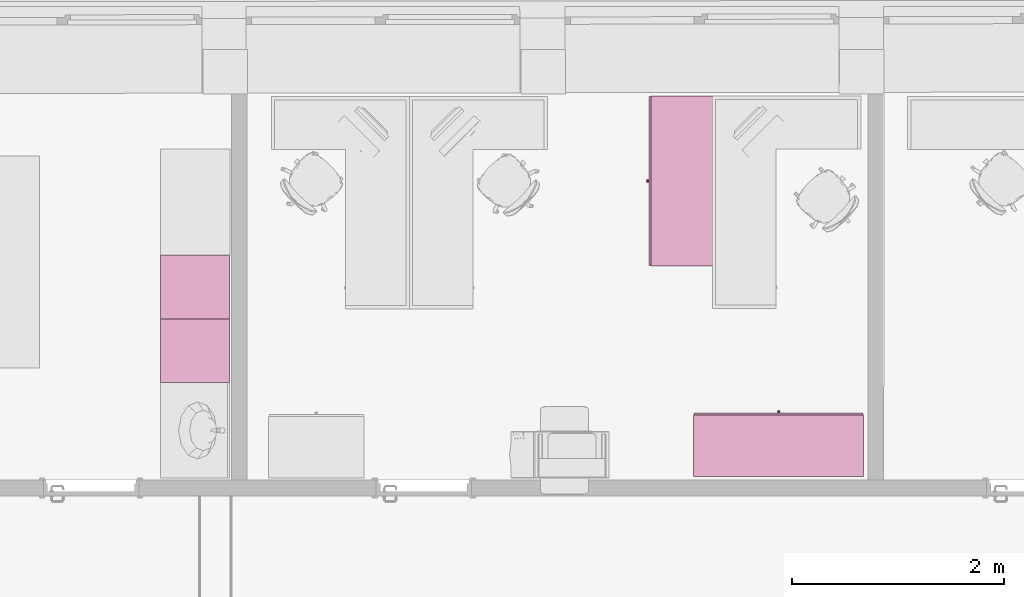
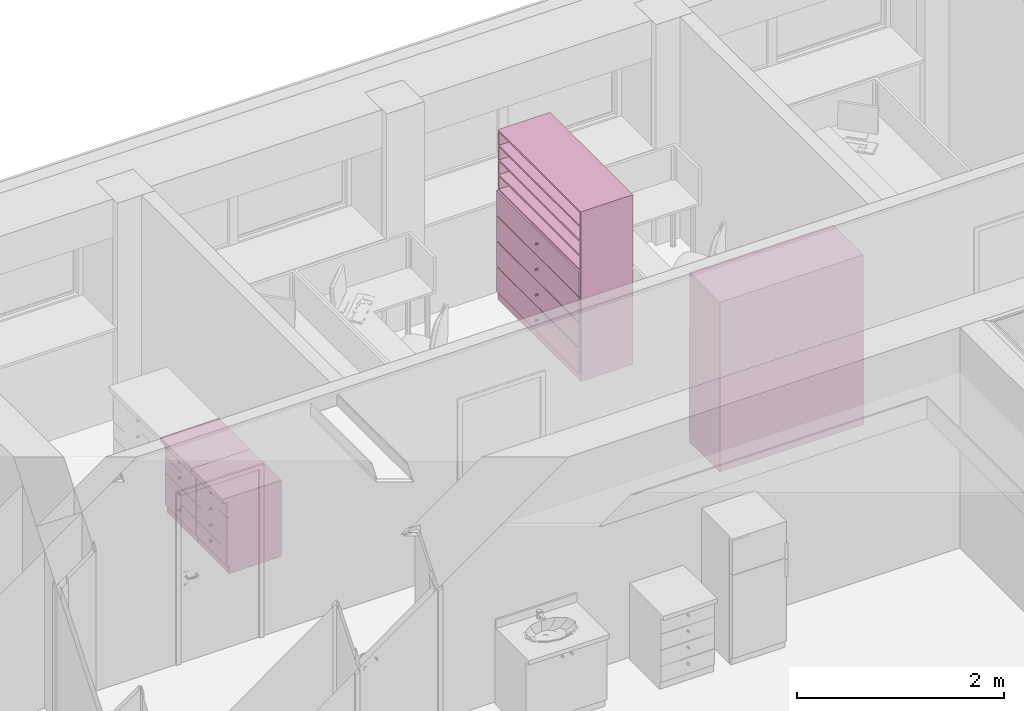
# One storey, part 98 of 127: 4 furnishings.
"""IFC2X3 building model written with IfcOpenShell, lengths in millimetres."""

import ifcopenshell
import ifcopenshell.guid

model = None  # the IFC model being written
_history = None  # IfcOwnerHistory: only IFC2X3 demands one
_inside = {}  # id of a spatial element -> (the spatial element, [elements in it])
_under = {}  # id of a project, library or spatial element -> (it, [spatial elements below it])
_declared = {}  # id of a project -> (the project, [libraries it declares])
_typed = {}  # id of a type object -> (the type object, [elements of that type])
_made_of = {}  # id of a material, layer set ... -> (it, [elements and type objects made of it])


def new_model(schema):
    """Start an empty IFC model of exactly this schema.

    Asked for "IFC4X3", IfcOpenShell would pick the latest addendum, in which some entities
    have other attributes; the version numbers below select the first issue.
    IFC2X3 requires an IfcOwnerHistory on every rooted entity: one is made here for all.
    """
    global model, _history
    if schema == "IFC4X3":
        model = ifcopenshell.file(schema_version=(4, 3, 0, 0))
    else:
        model = ifcopenshell.file(schema=schema)
    _inside.clear()
    _under.clear()
    _declared.clear()
    _typed.clear()
    _made_of.clear()
    _history = None
    if model.schema == "IFC2X3":
        org = make("IfcOrganization", Name="unknown")
        user = make(
            "IfcPersonAndOrganization",
            ThePerson=make("IfcPerson", FamilyName="unknown"),
            TheOrganization=org,
        )
        app = make(
            "IfcApplication",
            ApplicationDeveloper=org,
            Version="unknown",
            ApplicationFullName="unknown",
            ApplicationIdentifier="unknown",
        )
        _history = make(
            "IfcOwnerHistory",
            OwningUser=user,
            OwningApplication=app,
            ChangeAction="ADDED",
            CreationDate=0,
        )
    return model


def make(cls, **values):
    """One entity of the class cls with the attributes given. An attribute that is None is left unset."""
    return model.create_entity(
        cls, **{name: value for name, value in values.items() if value is not None}
    )


def entity(cls, *values):
    """Any entity or typed value of the class cls, its attributes in the order of the schema. None: left unset."""
    e = model.create_entity(cls)
    for i, value in enumerate(values):
        if value is not None:
            e[i] = value
    return e


def rooted(cls, **values):
    """An entity with a GlobalId (a new one), such as an element, a storey or a relation."""
    return make(cls, GlobalId=ifcopenshell.guid.new(), OwnerHistory=_history, **values)


def si_unit(unit_type, name, prefix=None):
    """IfcSIUnit, for example si_unit("LENGTHUNIT", "METRE", prefix="MILLI")."""
    return make("IfcSIUnit", UnitType=unit_type, Prefix=prefix, Name=name)


def converted_unit(unit_type, name, factor, base, dimensions=None, offset=None):
    """IfcConversionBasedUnit, such as the inch: factor (a typed value) times the base unit."""
    return make(
        "IfcConversionBasedUnit"
        if offset is None
        else "IfcConversionBasedUnitWithOffset",
        ConversionOffset=offset,
        Dimensions=None
        if dimensions is None
        else entity("IfcDimensionalExponents", *dimensions),
        UnitType=unit_type,
        Name=name,
        ConversionFactor=make(
            "IfcMeasureWithUnit", ValueComponent=factor, UnitComponent=base
        ),
    )


def derived_unit(unit_type, elements):
    """IfcDerivedUnit: a product of units, each with its exponent."""
    return make(
        "IfcDerivedUnit",
        Elements=[
            make("IfcDerivedUnitElement", Unit=unit, Exponent=power)
            for unit, power in elements
        ],
        UnitType=unit_type,
    )


def money_unit(currency):
    """IfcMonetaryUnit."""
    return make("IfcMonetaryUnit", Currency=currency)


def assignment(units):
    """IfcUnitAssignment: the units of a project."""
    return None if units is None else make("IfcUnitAssignment", Units=units)


def point(xyz):
    """IfcCartesianPoint."""
    return None if xyz is None else make("IfcCartesianPoint", Coordinates=xyz)


def direction(xyz):
    """IfcDirection."""
    return None if xyz is None else make("IfcDirection", DirectionRatios=xyz)


def frame(location, z_axis=None, x_axis=None):
    """IfcAxis2Placement3D, a coordinate frame: its origin and axes. An axis left out is left unset."""
    return make(
        "IfcAxis2Placement3D",
        Location=point(location),
        Axis=direction(z_axis),
        RefDirection=direction(x_axis),
    )


def origin_with_axes():
    """The frame at (0, 0, 0) with the z axis (0, 0, 1) and the x axis (1, 0, 0) written out."""
    return frame((0.0, 0.0, 0.0), z_axis=(0.0, 0.0, 1.0), x_axis=(1.0, 0.0, 0.0))


def place(relative_to, where):
    """IfcLocalPlacement: puts the frame where relative to a parent placement (None: the world)."""
    return make(
        "IfcLocalPlacement", PlacementRelTo=relative_to, RelativePlacement=where
    )


def context(
    kind, dimensions, precision=None, world=None, true_north=None, identifier=None
):
    """IfcGeometricRepresentationContext, for example the 3D "Model" context."""
    return make(
        "IfcGeometricRepresentationContext",
        ContextIdentifier=identifier,
        ContextType=kind,
        CoordinateSpaceDimension=dimensions,
        Precision=precision,
        WorldCoordinateSystem=world,
        TrueNorth=true_north,
    )


def subcontext(parent, identifier, kind, view, scale=None):
    """IfcGeometricRepresentationSubContext, for example "Body" below "Model"."""
    return make(
        "IfcGeometricRepresentationSubContext",
        ContextIdentifier=identifier,
        ContextType=kind,
        ParentContext=parent,
        TargetScale=scale,
        TargetView=view,
    )


def project(units=None, contexts=None):
    """IfcProject with its units and contexts."""
    return rooted(
        "IfcProject",
        Name="project",
        RepresentationContexts=contexts,
        UnitsInContext=assignment(units),
    )


def spatial(cls, under=None, at=None, **own):
    """A site, building, storey or space (cls), placed at a placement, below another one or the project."""
    s = rooted(cls, ObjectPlacement=at, **own)
    if under is not None:
        _under.setdefault(under.id(), (under, []))[1].append(s)
    return s


def faces_of(points, faces, orient=None, outer=None):
    """IfcFace entities. A face is a list of loops; a loop is a list of indices into points, from 0.

    orient and outer hold one flag for each loop. By default every Orientation is true, the
    first loop of a face is its IfcFaceOuterBound and the others are IfcFaceBound.
    """
    made = []
    for i, loops in enumerate(faces):
        bounds = []
        for j, loop in enumerate(loops):
            is_outer = j == 0 if outer is None else outer[i][j]
            bounds.append(
                make(
                    "IfcFaceOuterBound" if is_outer else "IfcFaceBound",
                    Bound=make("IfcPolyLoop", Polygon=[points[k] for k in loop]),
                    Orientation=True if orient is None else orient[i][j],
                )
            )
        made.append(make("IfcFace", Bounds=bounds))
    return made


def faceted_brep(points, faces, orient=None, outer=None, voids=None):
    """IfcFacetedBrep: a solid bounded by flat faces; with voids (closed shells), ...WithVoids."""
    shared = [point(p) for p in points]
    hull = make("IfcClosedShell", CfsFaces=faces_of(shared, faces, orient, outer))
    if voids is None:
        return make("IfcFacetedBrep", Outer=hull)
    return make(
        "IfcFacetedBrepWithVoids",
        Outer=hull,
        Voids=[
            make(cls, CfsFaces=faces_of(shared, fs, o, b)) for cls, fs, o, b in voids
        ],
    )


def shape(context_of_items, identifier, shape_type, items):
    """IfcShapeRepresentation: the items that make up one representation, for example the "Body"."""
    return make(
        "IfcShapeRepresentation",
        ContextOfItems=context_of_items,
        RepresentationIdentifier=identifier,
        RepresentationType=shape_type,
        Items=items,
    )


def source(mapping_origin, context_of_items, identifier, shape_type, items):
    """IfcRepresentationMap: a shape defined once, which mapped items show again and again."""
    return make(
        "IfcRepresentationMap",
        MappingOrigin=mapping_origin,
        MappedRepresentation=shape(context_of_items, identifier, shape_type, items),
    )


def transform(
    local_origin,
    x_axis=None,
    y_axis=None,
    z_axis=None,
    scale=None,
    scale2=None,
    scale3=None,
    uniform=True,
):
    """IfcCartesianTransformationOperator3D, or its non-uniform kind. x_axis, y_axis, z_axis: its Axis1, 2, 3."""
    if uniform:
        return make(
            "IfcCartesianTransformationOperator3D",
            Axis1=direction(x_axis),
            Axis2=direction(y_axis),
            LocalOrigin=point(local_origin),
            Scale=scale,
            Axis3=direction(z_axis),
        )
    return make(
        "IfcCartesianTransformationOperator3DnonUniform",
        Axis1=direction(x_axis),
        Axis2=direction(y_axis),
        LocalOrigin=point(local_origin),
        Scale=scale,
        Axis3=direction(z_axis),
        Scale2=scale2,
        Scale3=scale3,
    )


def mapped(mapping_source, mapping_target):
    """IfcMappedItem: shows the shape of a source again, moved by a transform."""
    return make(
        "IfcMappedItem", MappingSource=mapping_source, MappingTarget=mapping_target
    )


def made_of(thing, what):
    """Note that an element or type object is made of a material, layer set ...; save() writes the relation."""
    if what is not None:
        _made_of.setdefault(what.id(), (what, []))[1].append(thing)
    return thing


def type_object(cls, material=None, **own):
    """A type object (cls), such as IfcWallType, which elements share."""
    return made_of(rooted(cls, **own), material)


def element(
    cls,
    number,
    at=None,
    inside=None,
    cuts=None,
    type_object=None,
    material=None,
    context=None,
    identifier="Body",
    shape_type=None,
    held_by="IfcProductDefinitionShape",
    body=None,
    shapes=None,
    **own,
):
    """One element of the class cls, such as IfcWall. Its Tag is "e" and its number.

    at: its placement. inside: the storey or other place that contains it. cuts: it is an
    opening in that element (IfcRelVoidsElement). A single representation is given by context,
    identifier, shape_type and body (its items); several are given by shapes. held_by: the class
    of the entity that holds the representations. save() writes the other relations.
    """
    e = rooted(cls, Tag="e%d" % number, ObjectPlacement=at, **own)
    if body is not None:
        shapes = [shape(context, identifier, shape_type, body)]
    if shapes is not None:
        e.Representation = make(held_by, Representations=shapes)
    if inside is not None:
        _inside.setdefault(inside.id(), (inside, []))[1].append(e)
    if cuts is not None:
        rooted(
            "IfcRelVoidsElement", RelatingBuildingElement=cuts, RelatedOpeningElement=e
        )
    if type_object is not None:
        _typed.setdefault(type_object.id(), (type_object, []))[1].append(e)
    return made_of(e, material)


def aggregate(whole, parts):
    """IfcRelAggregates: a whole, such as a stair, and the parts it consists of."""
    return rooted("IfcRelAggregates", RelatingObject=whole, RelatedObjects=parts)


def save(model, path):
    """Write the relations noted so far, then the file.

    IfcRelAggregates (storeys below a building ...), IfcRelContainedInSpatialStructure (elements
    in a storey), IfcRelDefinesByType, IfcRelAssociatesMaterial and IfcRelDeclares: one each for
    every whole, place, type object, material and project.
    """
    for whole, parts in _under.values():
        aggregate(whole, parts)
    for where, things in _inside.values():
        rooted(
            "IfcRelContainedInSpatialStructure",
            RelatedElements=things,
            RelatingStructure=where,
        )
    for kind, things in _typed.values():
        rooted("IfcRelDefinesByType", RelatedObjects=things, RelatingType=kind)
    for what, things in _made_of.values():
        rooted("IfcRelAssociatesMaterial", RelatedObjects=things, RelatingMaterial=what)
    for by, libraries in _declared.values():
        rooted("IfcRelDeclares", RelatingContext=by, RelatedDefinitions=libraries)
    model.write(path)


model = new_model("IFC2X3")

# Units and contexts
model_context = context("Model", 3, precision=1e-05, world=origin_with_axes(), true_north=direction((0.0, 1.0)))
body_context = subcontext(model_context, "Body", "Model", "MODEL_VIEW")
ifc_project = project(units=[si_unit("LENGTHUNIT", "METRE", prefix="MILLI"), si_unit("AREAUNIT", "SQUARE_METRE"), si_unit("VOLUMEUNIT", "CUBIC_METRE"), converted_unit("PLANEANGLEUNIT", "DEGREE", entity("IfcPlaneAngleMeasure", 0.0174532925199), si_unit("PLANEANGLEUNIT", "RADIAN"), dimensions=[0, 0, 0, 0, 0, 0, 0]), si_unit("SOLIDANGLEUNIT", "STERADIAN"), money_unit("EUR"), converted_unit("TIMEUNIT", "Year", entity("IfcTimeMeasure", 31556926.0), si_unit("TIMEUNIT", "SECOND"), dimensions=[0, 0, 1, 0, 0, 0, 0]), si_unit("MASSUNIT", "GRAM", prefix="KILO"), si_unit("THERMODYNAMICTEMPERATUREUNIT", "DEGREE_CELSIUS"), si_unit("LUMINOUSINTENSITYUNIT", "LUMEN"), si_unit("ENERGYUNIT", "JOULE", prefix="MEGA"), derived_unit("THERMALCONDUCTANCEUNIT", [(si_unit("POWERUNIT", "WATT"), 1), (si_unit("LENGTHUNIT", "METRE"), -1), (si_unit("THERMODYNAMICTEMPERATUREUNIT", "KELVIN"), -1)]), derived_unit("SPECIFICHEATCAPACITYUNIT", [(si_unit("ENERGYUNIT", "JOULE"), 1), (si_unit("MASSUNIT", "GRAM", prefix="KILO"), -1), (si_unit("THERMODYNAMICTEMPERATUREUNIT", "KELVIN"), -1)]), derived_unit("MASSDENSITYUNIT", [(si_unit("MASSUNIT", "GRAM", prefix="KILO"), 1), (si_unit("VOLUMEUNIT", "CUBIC_METRE"), -1)])], contexts=[model_context])

# Site, building, storey
site_placement = place(None, origin_with_axes())
site = spatial("IfcSite", under=ifc_project, at=site_placement, Name="Site", CompositionType="ELEMENT")
building_placement = place(site_placement, origin_with_axes())
building = spatial("IfcBuilding", under=site, at=building_placement, Name="Building", CompositionType="ELEMENT")
storey_placement = place(building_placement, origin_with_axes())
storey = spatial("IfcBuildingStorey", under=building, at=storey_placement, Name="1 KORRUS", CompositionType="ELEMENT", Elevation=0.0)

# Furnishings
furnishing_element_type_1 = type_object("IfcFurnishingElementType", Name="Model Element 2")
shared_shape_1 = source(origin_with_axes(), body_context, "Body", "Brep", [
    faceted_brep([(1600.0, 19.0, 0.0), (0.0, 19.0, 0.0), (0.0, 600.000000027, 0.0), (1600.0, 600.000000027, 0.0), (1600.0, 19.0, 100.0), (0.0, 19.0, 100.0), (0.0, 600.000000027, 100.0), (1600.0, 600.000000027, 100.0)], [[[0, 1, 2, 3]], [[1, 0, 4, 5]], [[2, 1, 5, 6]], [[3, 2, 6, 7]], [[0, 3, 7, 4]], [[5, 4, 7, 6]]]),
    faceted_brep([(19.0, 600.000000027, 119.0), (19.0, 581.000000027, 119.0), (19.0, 581.000000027, 1981.0), (19.0, 600.000000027, 1981.0), (1581.0, 600.000000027, 119.0), (1581.0, 581.000000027, 119.0), (1581.0, 581.000000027, 1981.0), (1581.0, 600.000000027, 1981.0)], [[[0, 1, 2, 3]], [[0, 4, 5, 1]], [[1, 5, 6, 2]], [[3, 2, 6, 7]], [[4, 0, 3, 7]], [[5, 4, 7, 6]]]),
    faceted_brep([(1600.0, 19.0, 100.0), (1581.0, 19.0, 100.0), (1581.0, 600.000000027, 100.0), (1600.0, 600.000000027, 100.0), (1600.0, 19.0, 2000.0), (1581.0, 19.0, 2000.0), (1581.0, 600.000000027, 2000.0), (1600.0, 600.000000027, 2000.0)], [[[0, 1, 2, 3]], [[1, 0, 4, 5]], [[2, 1, 5, 6]], [[3, 2, 6, 7]], [[0, 3, 7, 4]], [[5, 4, 7, 6]]]),
    faceted_brep([(19.0, 19.0, 100.0), (0.0, 19.0, 100.0), (0.0, 600.000000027, 100.0), (19.0, 600.000000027, 100.0), (19.0, 19.0, 2000.0), (0.0, 19.0, 2000.0), (0.0, 600.000000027, 2000.0), (19.0, 600.000000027, 2000.0)], [[[0, 1, 2, 3]], [[1, 0, 4, 5]], [[2, 1, 5, 6]], [[3, 2, 6, 7]], [[0, 3, 7, 4]], [[5, 4, 7, 6]]]),
    faceted_brep([(1581.0, 19.0, 100.0), (19.0, 19.0, 100.0), (19.0, 600.000000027, 100.0), (1581.0, 600.000000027, 100.0), (1581.0, 19.0, 119.0), (19.0, 19.0, 119.0), (19.0, 600.000000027, 119.0), (1581.0, 600.000000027, 119.0)], [[[0, 1, 2, 3]], [[1, 0, 4, 5]], [[2, 1, 5, 6]], [[3, 2, 6, 7]], [[0, 3, 7, 4]], [[5, 4, 7, 6]]]),
    faceted_brep([(1581.0, 19.0, 1981.0), (19.0, 19.0, 1981.0), (19.0, 600.000000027, 1981.0), (1581.0, 600.000000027, 1981.0), (1581.0, 19.0, 2000.0), (19.0, 19.0, 2000.0), (19.0, 600.000000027, 2000.0), (1581.0, 600.000000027, 2000.0)], [[[0, 1, 2, 3]], [[1, 0, 4, 5]], [[2, 1, 5, 6]], [[3, 2, 6, 7]], [[0, 3, 7, 4]], [[5, 4, 7, 6]]]),
    faceted_brep([(5.0, 19.0, 105.0), (1595.0, 19.0, 105.0), (1595.0, 0.0, 105.0), (5.0, 0.0, 105.0), (5.0, 19.0, 395.0), (1595.0, 19.0, 395.0), (1595.0, 0.0, 395.0), (5.0, 0.0, 395.0)], [[[0, 1, 2, 3]], [[0, 4, 5, 1]], [[1, 5, 6, 2]], [[3, 2, 6, 7]], [[4, 0, 3, 7]], [[5, 4, 7, 6]]]),
    faceted_brep([(810.392304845, 0.0, 244.0), (806.0, 0.0, 239.607695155), (800.0, 0.0, 238.0), (794.0, 0.0, 239.607695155), (789.607695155, 0.0, 244.0), (788.0, 0.0, 250.0), (789.607695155, 0.0, 256.0), (794.0, 0.0, 260.392304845), (800.0, 0.0, 262.0), (806.0, 0.0, 260.392304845), (810.392304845, 0.0, 256.0), (812.0, 0.0, 250.0), (810.392304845, -25.0, 244.0), (806.0, -25.0, 239.607695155), (800.0, -25.0, 238.0), (794.0, -25.0, 239.607695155), (789.607695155, -25.0, 244.0), (788.0, -25.0, 250.0), (789.607695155, -25.0, 256.0), (794.0, -25.0, 260.392304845), (800.0, -25.0, 262.0), (806.0, -25.0, 260.392304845), (810.392304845, -25.0, 256.0), (812.0, -25.0, 250.0)], [[[0, 1, 2, 3, 4, 5, 6, 7, 8, 9, 10, 11]], [[1, 0, 12, 13]], [[2, 1, 13, 14]], [[3, 2, 14, 15]], [[4, 3, 15, 16]], [[5, 4, 16, 17]], [[6, 5, 17, 18]], [[7, 6, 18, 19]], [[8, 7, 19, 20]], [[9, 8, 20, 21]], [[10, 9, 21, 22]], [[11, 10, 22, 23]], [[0, 11, 23, 12]], [[12, 23, 22, 21, 20, 19, 18, 17, 16, 15, 14, 13]]]),
    faceted_brep([(5.0, 19.0, 405.0), (1595.0, 19.0, 405.0), (1595.0, 0.0, 405.0), (5.0, 0.0, 405.0), (5.0, 19.0, 695.0), (1595.0, 19.0, 695.0), (1595.0, 0.0, 695.0), (5.0, 0.0, 695.0)], [[[0, 1, 2, 3]], [[0, 4, 5, 1]], [[1, 5, 6, 2]], [[3, 2, 6, 7]], [[4, 0, 3, 7]], [[5, 4, 7, 6]]]),
    faceted_brep([(810.392304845, 0.0, 544.0), (806.0, 0.0, 539.607695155), (800.0, 0.0, 538.0), (794.0, 0.0, 539.607695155), (789.607695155, 0.0, 544.0), (788.0, 0.0, 550.0), (789.607695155, 0.0, 556.0), (794.0, 0.0, 560.392304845), (800.0, 0.0, 562.0), (806.0, 0.0, 560.392304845), (810.392304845, 0.0, 556.0), (812.0, 0.0, 550.0), (810.392304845, -25.0, 544.0), (806.0, -25.0, 539.607695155), (800.0, -25.0, 538.0), (794.0, -25.0, 539.607695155), (789.607695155, -25.0, 544.0), (788.0, -25.0, 550.0), (789.607695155, -25.0, 556.0), (794.0, -25.0, 560.392304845), (800.0, -25.0, 562.0), (806.0, -25.0, 560.392304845), (810.392304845, -25.0, 556.0), (812.0, -25.0, 550.0)], [[[0, 1, 2, 3, 4, 5, 6, 7, 8, 9, 10, 11]], [[1, 0, 12, 13]], [[2, 1, 13, 14]], [[3, 2, 14, 15]], [[4, 3, 15, 16]], [[5, 4, 16, 17]], [[6, 5, 17, 18]], [[7, 6, 18, 19]], [[8, 7, 19, 20]], [[9, 8, 20, 21]], [[10, 9, 21, 22]], [[11, 10, 22, 23]], [[0, 11, 23, 12]], [[12, 23, 22, 21, 20, 19, 18, 17, 16, 15, 14, 13]]]),
    faceted_brep([(5.0, 19.0, 705.0), (1595.0, 19.0, 705.0), (1595.0, 0.0, 705.0), (5.0, 0.0, 705.0), (5.0, 19.0, 995.0), (1595.0, 19.0, 995.0), (1595.0, 0.0, 995.0), (5.0, 0.0, 995.0)], [[[0, 1, 2, 3]], [[0, 4, 5, 1]], [[1, 5, 6, 2]], [[3, 2, 6, 7]], [[4, 0, 3, 7]], [[5, 4, 7, 6]]]),
    faceted_brep([(810.392304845, 0.0, 844.0), (806.0, 0.0, 839.607695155), (800.0, 0.0, 838.0), (794.0, 0.0, 839.607695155), (789.607695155, 0.0, 844.0), (788.0, 0.0, 850.0), (789.607695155, 0.0, 856.0), (794.0, 0.0, 860.392304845), (800.0, 0.0, 862.0), (806.0, 0.0, 860.392304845), (810.392304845, 0.0, 856.0), (812.0, 0.0, 850.0), (810.392304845, -25.0, 844.0), (806.0, -25.0, 839.607695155), (800.0, -25.0, 838.0), (794.0, -25.0, 839.607695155), (789.607695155, -25.0, 844.0), (788.0, -25.0, 850.0), (789.607695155, -25.0, 856.0), (794.0, -25.0, 860.392304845), (800.0, -25.0, 862.0), (806.0, -25.0, 860.392304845), (810.392304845, -25.0, 856.0), (812.0, -25.0, 850.0)], [[[0, 1, 2, 3, 4, 5, 6, 7, 8, 9, 10, 11]], [[1, 0, 12, 13]], [[2, 1, 13, 14]], [[3, 2, 14, 15]], [[4, 3, 15, 16]], [[5, 4, 16, 17]], [[6, 5, 17, 18]], [[7, 6, 18, 19]], [[8, 7, 19, 20]], [[9, 8, 20, 21]], [[10, 9, 21, 22]], [[11, 10, 22, 23]], [[0, 11, 23, 12]], [[12, 23, 22, 21, 20, 19, 18, 17, 16, 15, 14, 13]]]),
    faceted_brep([(5.0, 19.0, 1005.0), (1595.0, 19.0, 1005.0), (1595.0, 0.0, 1005.0), (5.0, 0.0, 1005.0), (5.0, 19.0, 1295.0), (1595.0, 19.0, 1295.0), (1595.0, 0.0, 1295.0), (5.0, 0.0, 1295.0)], [[[0, 1, 2, 3]], [[0, 4, 5, 1]], [[1, 5, 6, 2]], [[3, 2, 6, 7]], [[4, 0, 3, 7]], [[5, 4, 7, 6]]]),
    faceted_brep([(810.392304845, 0.0, 1144.0), (806.0, 0.0, 1139.60769515), (800.0, 0.0, 1138.0), (794.0, 0.0, 1139.60769515), (789.607695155, 0.0, 1144.0), (788.0, 0.0, 1150.0), (789.607695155, 0.0, 1156.0), (794.0, 0.0, 1160.39230485), (800.0, 0.0, 1162.0), (806.0, 0.0, 1160.39230485), (810.392304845, 0.0, 1156.0), (812.0, 0.0, 1150.0), (810.392304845, -25.0, 1144.0), (806.0, -25.0, 1139.60769515), (800.0, -25.0, 1138.0), (794.0, -25.0, 1139.60769515), (789.607695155, -25.0, 1144.0), (788.0, -25.0, 1150.0), (789.607695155, -25.0, 1156.0), (794.0, -25.0, 1160.39230485), (800.0, -25.0, 1162.0), (806.0, -25.0, 1160.39230485), (810.392304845, -25.0, 1156.0), (812.0, -25.0, 1150.0)], [[[0, 1, 2, 3, 4, 5, 6, 7, 8, 9, 10, 11]], [[1, 0, 12, 13]], [[2, 1, 13, 14]], [[3, 2, 14, 15]], [[4, 3, 15, 16]], [[5, 4, 16, 17]], [[6, 5, 17, 18]], [[7, 6, 18, 19]], [[8, 7, 19, 20]], [[9, 8, 20, 21]], [[10, 9, 21, 22]], [[11, 10, 22, 23]], [[0, 11, 23, 12]], [[12, 23, 22, 21, 20, 19, 18, 17, 16, 15, 14, 13]]]),
    faceted_brep([(19.0, 19.0, 390.5), (1581.0, 19.0, 390.5), (1581.0, 19.0, 409.5), (19.0, 19.0, 409.5), (19.0, 581.000000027, 390.5), (1581.0, 581.000000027, 390.5), (1581.0, 581.000000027, 409.5), (19.0, 581.000000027, 409.5)], [[[0, 1, 2, 3]], [[0, 4, 5, 1]], [[1, 5, 6, 2]], [[3, 2, 6, 7]], [[4, 0, 3, 7]], [[5, 4, 7, 6]]]),
    faceted_brep([(19.0, 19.0, 690.5), (1581.0, 19.0, 690.5), (1581.0, 19.0, 709.5), (19.0, 19.0, 709.5), (19.0, 581.000000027, 690.5), (1581.0, 581.000000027, 690.5), (1581.0, 581.000000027, 709.5), (19.0, 581.000000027, 709.5)], [[[0, 1, 2, 3]], [[0, 4, 5, 1]], [[1, 5, 6, 2]], [[3, 2, 6, 7]], [[4, 0, 3, 7]], [[5, 4, 7, 6]]]),
    faceted_brep([(19.0, 19.0, 990.5), (1581.0, 19.0, 990.5), (1581.0, 19.0, 1009.5), (19.0, 19.0, 1009.5), (19.0, 581.000000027, 990.5), (1581.0, 581.000000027, 990.5), (1581.0, 581.000000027, 1009.5), (19.0, 581.000000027, 1009.5)], [[[0, 1, 2, 3]], [[0, 4, 5, 1]], [[1, 5, 6, 2]], [[3, 2, 6, 7]], [[4, 0, 3, 7]], [[5, 4, 7, 6]]]),
    faceted_brep([(19.0, 19.0, 1290.5), (1581.0, 19.0, 1290.5), (1581.0, 19.0, 1309.5), (19.0, 19.0, 1309.5), (19.0, 581.000000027, 1290.5), (1581.0, 581.000000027, 1290.5), (1581.0, 581.000000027, 1309.5), (19.0, 581.000000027, 1309.5)], [[[0, 1, 2, 3]], [[0, 4, 5, 1]], [[1, 5, 6, 2]], [[3, 2, 6, 7]], [[4, 0, 3, 7]], [[5, 4, 7, 6]]]),
    faceted_brep([(1581.0, 19.0, 1463.125), (19.0, 19.0, 1463.125), (19.0, 581.000000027, 1463.125), (1581.0, 581.000000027, 1463.125), (1581.0, 19.0, 1482.125), (19.0, 19.0, 1482.125), (19.0, 581.000000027, 1482.125), (1581.0, 581.000000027, 1482.125)], [[[0, 1, 2, 3]], [[1, 0, 4, 5]], [[2, 1, 5, 6]], [[3, 2, 6, 7]], [[0, 3, 7, 4]], [[5, 4, 7, 6]]]),
    faceted_brep([(1581.0, 19.0, 1635.75), (19.0, 19.0, 1635.75), (19.0, 581.000000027, 1635.75), (1581.0, 581.000000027, 1635.75), (1581.0, 19.0, 1654.75), (19.0, 19.0, 1654.75), (19.0, 581.000000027, 1654.75), (1581.0, 581.000000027, 1654.75)], [[[0, 1, 2, 3]], [[1, 0, 4, 5]], [[2, 1, 5, 6]], [[3, 2, 6, 7]], [[0, 3, 7, 4]], [[5, 4, 7, 6]]]),
    faceted_brep([(1581.0, 19.0, 1808.375), (19.0, 19.0, 1808.375), (19.0, 581.000000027, 1808.375), (1581.0, 581.000000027, 1808.375), (1581.0, 19.0, 1827.375), (19.0, 19.0, 1827.375), (19.0, 581.000000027, 1827.375), (1581.0, 581.000000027, 1827.375)], [[[0, 1, 2, 3]], [[1, 0, 4, 5]], [[2, 1, 5, 6]], [[3, 2, 6, 7]], [[0, 3, 7, 4]], [[5, 4, 7, 6]]]),
])
for number, where, z_axis, x_axis, name in (
    (1, (22950.1358893, 71067.8345035, 0.0), (0.0, 0.0, 1.0), (0.0, -1.0, 0.0), "FU - 003"),
    (2, (24969.4822249, 68079.8866293, 0.0), (0.0, 0.0, 1.0), (-1.0, 0.0, 0.0), "FU - 003"),
):
    element("IfcFurnishingElement", number, at=place(storey_placement, frame(where, z_axis=z_axis, x_axis=x_axis)), inside=storey, type_object=furnishing_element_type_1, Name=name, context=body_context, shape_type="MappedRepresentation", body=[
        mapped(shared_shape_1, transform((0.0, 0.0, 0.0))),
    ])
furnishing_element_type_2 = type_object("IfcFurnishingElementType", Name="Model Element 27")
shared_shape_2 = source(origin_with_axes(), body_context, "Body", "Brep", [
    faceted_brep([(1.5, 70.0, 91.5), (599.229420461, 70.0, 91.5), (599.229420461, 50.0, 91.5), (1.5, 50.0, 91.5), (1.5, 70.0, 278.5), (599.229420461, 70.0, 278.5), (599.229420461, 50.0, 278.5), (1.5, 50.0, 278.5)], [[[0, 1, 2, 3]], [[0, 4, 5, 1]], [[1, 5, 6, 2]], [[3, 2, 6, 7]], [[4, 0, 3, 7]], [[5, 4, 7, 6]]]),
    faceted_brep([(295.772509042, 50.0, 203.91344561), (291.879428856, 50.0, 206.514718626), (289.27815584, 50.0, 210.407798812), (288.364710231, 50.0, 215.0), (289.27815584, 50.0, 219.592201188), (291.879428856, 50.0, 223.485281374), (295.772509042, 50.0, 226.08655439), (300.364710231, 50.0, 227.0), (304.956911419, 50.0, 226.08655439), (308.849991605, 50.0, 223.485281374), (311.451264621, 50.0, 219.592201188), (312.364710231, 50.0, 215.0), (311.451264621, 50.0, 210.407798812), (308.849991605, 50.0, 206.514718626), (304.956911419, 50.0, 203.91344561), (300.364710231, 50.0, 203.0), (295.772509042, 25.0, 203.91344561), (291.879428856, 25.0, 206.514718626), (289.27815584, 25.0, 210.407798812), (288.364710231, 25.0, 215.0), (289.27815584, 25.0, 219.592201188), (291.879428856, 25.0, 223.485281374), (295.772509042, 25.0, 226.08655439), (300.364710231, 25.0, 227.0), (304.956911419, 25.0, 226.08655439), (308.849991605, 25.0, 223.485281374), (311.451264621, 25.0, 219.592201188), (312.364710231, 25.0, 215.0), (311.451264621, 25.0, 210.407798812), (308.849991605, 25.0, 206.514718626), (304.956911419, 25.0, 203.91344561), (300.364710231, 25.0, 203.0)], [[[0, 1, 2, 3, 4, 5, 6, 7, 8, 9, 10, 11, 12, 13, 14, 15]], [[1, 0, 16, 17]], [[2, 1, 17, 18]], [[3, 2, 18, 19]], [[4, 3, 19, 20]], [[5, 4, 20, 21]], [[6, 5, 21, 22]], [[7, 6, 22, 23]], [[8, 7, 23, 24]], [[9, 8, 24, 25]], [[10, 9, 25, 26]], [[11, 10, 26, 27]], [[12, 11, 27, 28]], [[13, 12, 28, 29]], [[14, 13, 29, 30]], [[15, 14, 30, 31]], [[0, 15, 31, 16]], [[16, 31, 30, 29, 28, 27, 26, 25, 24, 23, 22, 21, 20, 19, 18, 17]]]),
    faceted_brep([(1.5, 70.0, 281.5), (599.229420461, 70.0, 281.5), (599.229420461, 50.0, 281.5), (1.5, 50.0, 281.5), (1.5, 70.0, 468.5), (599.229420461, 70.0, 468.5), (599.229420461, 50.0, 468.5), (1.5, 50.0, 468.5)], [[[0, 1, 2, 3]], [[0, 4, 5, 1]], [[1, 5, 6, 2]], [[3, 2, 6, 7]], [[4, 0, 3, 7]], [[5, 4, 7, 6]]]),
    faceted_brep([(295.772509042, 50.0, 393.91344561), (291.879428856, 50.0, 396.514718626), (289.27815584, 50.0, 400.407798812), (288.364710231, 50.0, 405.0), (289.27815584, 50.0, 409.592201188), (291.879428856, 50.0, 413.485281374), (295.772509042, 50.0, 416.08655439), (300.364710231, 50.0, 417.0), (304.956911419, 50.0, 416.08655439), (308.849991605, 50.0, 413.485281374), (311.451264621, 50.0, 409.592201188), (312.364710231, 50.0, 405.0), (311.451264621, 50.0, 400.407798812), (308.849991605, 50.0, 396.514718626), (304.956911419, 50.0, 393.91344561), (300.364710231, 50.0, 393.0), (295.772509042, 25.0, 393.91344561), (291.879428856, 25.0, 396.514718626), (289.27815584, 25.0, 400.407798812), (288.364710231, 25.0, 405.0), (289.27815584, 25.0, 409.592201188), (291.879428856, 25.0, 413.485281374), (295.772509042, 25.0, 416.08655439), (300.364710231, 25.0, 417.0), (304.956911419, 25.0, 416.08655439), (308.849991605, 25.0, 413.485281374), (311.451264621, 25.0, 409.592201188), (312.364710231, 25.0, 405.0), (311.451264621, 25.0, 400.407798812), (308.849991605, 25.0, 396.514718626), (304.956911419, 25.0, 393.91344561), (300.364710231, 25.0, 393.0)], [[[0, 1, 2, 3, 4, 5, 6, 7, 8, 9, 10, 11, 12, 13, 14, 15]], [[1, 0, 16, 17]], [[2, 1, 17, 18]], [[3, 2, 18, 19]], [[4, 3, 19, 20]], [[5, 4, 20, 21]], [[6, 5, 21, 22]], [[7, 6, 22, 23]], [[8, 7, 23, 24]], [[9, 8, 24, 25]], [[10, 9, 25, 26]], [[11, 10, 26, 27]], [[12, 11, 27, 28]], [[13, 12, 28, 29]], [[14, 13, 29, 30]], [[15, 14, 30, 31]], [[0, 15, 31, 16]], [[16, 31, 30, 29, 28, 27, 26, 25, 24, 23, 22, 21, 20, 19, 18, 17]]]),
    faceted_brep([(20.0, 70.0, 280.0), (580.729420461, 70.0, 280.0), (580.729420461, 70.0, 300.0), (20.0, 70.0, 300.0), (20.0, 631.095435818, 280.0), (580.729420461, 631.095435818, 280.0), (580.729420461, 631.095435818, 300.0), (20.0, 631.095435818, 300.0)], [[[0, 1, 2, 3]], [[0, 4, 5, 1]], [[1, 5, 6, 2]], [[3, 2, 6, 7]], [[4, 0, 3, 7]], [[5, 4, 7, 6]]]),
    faceted_brep([(1.5, 70.0, 471.5), (599.229420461, 70.0, 471.5), (599.229420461, 50.0, 471.5), (1.5, 50.0, 471.5), (1.5, 70.0, 658.5), (599.229420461, 70.0, 658.5), (599.229420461, 50.0, 658.5), (1.5, 50.0, 658.5)], [[[0, 1, 2, 3]], [[0, 4, 5, 1]], [[1, 5, 6, 2]], [[3, 2, 6, 7]], [[4, 0, 3, 7]], [[5, 4, 7, 6]]]),
    faceted_brep([(295.772509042, 50.0, 583.91344561), (291.879428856, 50.0, 586.514718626), (289.27815584, 50.0, 590.407798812), (288.364710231, 50.0, 595.0), (289.27815584, 50.0, 599.592201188), (291.879428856, 50.0, 603.485281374), (295.772509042, 50.0, 606.08655439), (300.364710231, 50.0, 607.0), (304.956911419, 50.0, 606.08655439), (308.849991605, 50.0, 603.485281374), (311.451264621, 50.0, 599.592201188), (312.364710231, 50.0, 595.0), (311.451264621, 50.0, 590.407798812), (308.849991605, 50.0, 586.514718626), (304.956911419, 50.0, 583.91344561), (300.364710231, 50.0, 583.0), (295.772509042, 25.0, 583.91344561), (291.879428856, 25.0, 586.514718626), (289.27815584, 25.0, 590.407798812), (288.364710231, 25.0, 595.0), (289.27815584, 25.0, 599.592201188), (291.879428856, 25.0, 603.485281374), (295.772509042, 25.0, 606.08655439), (300.364710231, 25.0, 607.0), (304.956911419, 25.0, 606.08655439), (308.849991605, 25.0, 603.485281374), (311.451264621, 25.0, 599.592201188), (312.364710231, 25.0, 595.0), (311.451264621, 25.0, 590.407798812), (308.849991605, 25.0, 586.514718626), (304.956911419, 25.0, 583.91344561), (300.364710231, 25.0, 583.0)], [[[0, 1, 2, 3, 4, 5, 6, 7, 8, 9, 10, 11, 12, 13, 14, 15]], [[1, 0, 16, 17]], [[2, 1, 17, 18]], [[3, 2, 18, 19]], [[4, 3, 19, 20]], [[5, 4, 20, 21]], [[6, 5, 21, 22]], [[7, 6, 22, 23]], [[8, 7, 23, 24]], [[9, 8, 24, 25]], [[10, 9, 25, 26]], [[11, 10, 26, 27]], [[12, 11, 27, 28]], [[13, 12, 28, 29]], [[14, 13, 29, 30]], [[15, 14, 30, 31]], [[0, 15, 31, 16]], [[16, 31, 30, 29, 28, 27, 26, 25, 24, 23, 22, 21, 20, 19, 18, 17]]]),
    faceted_brep([(20.0, 70.0, 470.0), (580.729420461, 70.0, 470.0), (580.729420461, 70.0, 490.0), (20.0, 70.0, 490.0), (20.0, 631.095435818, 470.0), (580.729420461, 631.095435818, 470.0), (580.729420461, 631.095435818, 490.0), (20.0, 631.095435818, 490.0)], [[[0, 1, 2, 3]], [[0, 4, 5, 1]], [[1, 5, 6, 2]], [[3, 2, 6, 7]], [[4, 0, 3, 7]], [[5, 4, 7, 6]]]),
    faceted_brep([(1.5, 70.0, 661.5), (599.229420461, 70.0, 661.5), (599.229420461, 50.0, 661.5), (1.5, 50.0, 661.5), (1.5, 70.0, 848.5), (599.229420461, 70.0, 848.5), (599.229420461, 50.0, 848.5), (1.5, 50.0, 848.5)], [[[0, 1, 2, 3]], [[0, 4, 5, 1]], [[1, 5, 6, 2]], [[3, 2, 6, 7]], [[4, 0, 3, 7]], [[5, 4, 7, 6]]]),
    faceted_brep([(295.772509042, 50.0, 773.91344561), (291.879428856, 50.0, 776.514718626), (289.27815584, 50.0, 780.407798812), (288.364710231, 50.0, 785.0), (289.27815584, 50.0, 789.592201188), (291.879428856, 50.0, 793.485281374), (295.772509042, 50.0, 796.08655439), (300.364710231, 50.0, 797.0), (304.956911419, 50.0, 796.08655439), (308.849991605, 50.0, 793.485281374), (311.451264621, 50.0, 789.592201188), (312.364710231, 50.0, 785.0), (311.451264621, 50.0, 780.407798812), (308.849991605, 50.0, 776.514718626), (304.956911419, 50.0, 773.91344561), (300.364710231, 50.0, 773.0), (295.772509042, 25.0, 773.91344561), (291.879428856, 25.0, 776.514718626), (289.27815584, 25.0, 780.407798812), (288.364710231, 25.0, 785.0), (289.27815584, 25.0, 789.592201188), (291.879428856, 25.0, 793.485281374), (295.772509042, 25.0, 796.08655439), (300.364710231, 25.0, 797.0), (304.956911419, 25.0, 796.08655439), (308.849991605, 25.0, 793.485281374), (311.451264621, 25.0, 789.592201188), (312.364710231, 25.0, 785.0), (311.451264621, 25.0, 780.407798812), (308.849991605, 25.0, 776.514718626), (304.956911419, 25.0, 773.91344561), (300.364710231, 25.0, 773.0)], [[[0, 1, 2, 3, 4, 5, 6, 7, 8, 9, 10, 11, 12, 13, 14, 15]], [[1, 0, 16, 17]], [[2, 1, 17, 18]], [[3, 2, 18, 19]], [[4, 3, 19, 20]], [[5, 4, 20, 21]], [[6, 5, 21, 22]], [[7, 6, 22, 23]], [[8, 7, 23, 24]], [[9, 8, 24, 25]], [[10, 9, 25, 26]], [[11, 10, 26, 27]], [[12, 11, 27, 28]], [[13, 12, 28, 29]], [[14, 13, 29, 30]], [[15, 14, 30, 31]], [[0, 15, 31, 16]], [[16, 31, 30, 29, 28, 27, 26, 25, 24, 23, 22, 21, 20, 19, 18, 17]]]),
    faceted_brep([(20.0, 70.0, 660.0), (580.729420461, 70.0, 660.0), (580.729420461, 70.0, 680.0), (20.0, 70.0, 680.0), (20.0, 631.095435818, 660.0), (580.729420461, 631.095435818, 660.0), (580.729420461, 631.095435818, 680.0), (20.0, 631.095435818, 680.0)], [[[0, 1, 2, 3]], [[0, 4, 5, 1]], [[1, 5, 6, 2]], [[3, 2, 6, 7]], [[4, 0, 3, 7]], [[5, 4, 7, 6]]]),
    faceted_brep([(0.0, 70.0, 0.0), (600.729420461, 70.0, 0.0), (600.729420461, 70.0, 90.0), (0.0, 70.0, 90.0), (0.0, 651.095435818, 0.0), (600.729420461, 651.095435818, 0.0), (600.729420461, 651.095435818, 90.0), (0.0, 651.095435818, 90.0)], [[[0, 1, 2, 3]], [[0, 4, 5, 1]], [[1, 5, 6, 2]], [[3, 2, 6, 7]], [[4, 0, 3, 7]], [[5, 4, 7, 6]]]),
    faceted_brep([(0.0, 70.0, 830.0), (20.0, 70.0, 830.0), (20.0, 70.0, 850.0), (0.0, 70.0, 850.0), (0.0, 651.095435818, 830.0), (20.0, 651.095435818, 830.0), (580.729420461, 651.095435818, 830.0), (600.729420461, 651.095435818, 830.0), (600.729420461, 70.0, 830.0), (580.729420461, 70.0, 830.0), (580.729420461, 70.0, 850.0), (600.729420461, 70.0, 850.0), (600.729420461, 651.095435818, 850.0), (580.729420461, 651.095435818, 850.0), (20.0, 651.095435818, 850.0), (0.0, 651.095435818, 850.0)], [[[0, 1, 2, 3]], [[0, 4, 5, 6, 7, 8, 9, 1]], [[1, 9, 10, 2]], [[3, 2, 10, 11, 12, 13, 14, 15]], [[4, 0, 3, 15]], [[5, 4, 15, 14]], [[6, 5, 14, 13]], [[7, 6, 13, 12]], [[8, 7, 12, 11]], [[9, 8, 11, 10]]]),
    faceted_brep([(0.0, 70.0, 90.0), (20.0, 70.0, 90.0), (20.0, 70.0, 110.0), (0.0, 70.0, 110.0), (0.0, 651.095435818, 90.0), (20.0, 651.095435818, 90.0), (580.729420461, 651.095435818, 90.0), (600.729420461, 651.095435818, 90.0), (600.729420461, 70.0, 90.0), (580.729420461, 70.0, 90.0), (580.729420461, 70.0, 110.0), (600.729420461, 70.0, 110.0), (600.729420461, 651.095435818, 110.0), (580.729420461, 651.095435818, 110.0), (20.0, 651.095435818, 110.0), (0.0, 651.095435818, 110.0)], [[[0, 1, 2, 3]], [[0, 4, 5, 6, 7, 8, 9, 1]], [[1, 9, 10, 2]], [[3, 2, 10, 11, 12, 13, 14, 15]], [[4, 0, 3, 15]], [[5, 4, 15, 14]], [[6, 5, 14, 13]], [[7, 6, 13, 12]], [[8, 7, 12, 11]], [[9, 8, 11, 10]]]),
    faceted_brep([(0.0, 70.0, 110.0), (20.0, 70.0, 110.0), (20.0, 70.0, 830.0), (0.0, 70.0, 830.0), (0.0, 651.095435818, 110.0), (600.729420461, 651.095435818, 110.0), (600.729420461, 70.0, 110.0), (580.729420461, 70.0, 110.0), (580.729420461, 631.095435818, 110.0), (20.0, 631.095435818, 110.0), (20.0, 631.095435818, 830.0), (580.729420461, 631.095435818, 830.0), (580.729420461, 70.0, 830.0), (600.729420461, 70.0, 830.0), (600.729420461, 651.095435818, 830.0), (0.0, 651.095435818, 830.0)], [[[0, 1, 2, 3]], [[0, 4, 5, 6, 7, 8, 9, 1]], [[1, 9, 10, 2]], [[3, 2, 10, 11, 12, 13, 14, 15]], [[4, 0, 3, 15]], [[5, 4, 15, 14]], [[6, 5, 14, 13]], [[7, 6, 13, 12]], [[8, 7, 12, 11]], [[9, 8, 11, 10]]]),
    faceted_brep([(0.0, 0.0, 850.0), (600.729420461, 0.0, 850.0), (600.729420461, 0.0, 900.0), (0.0, 0.0, 900.0), (0.0, 651.095435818, 850.0), (600.729420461, 651.095435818, 850.0), (600.729420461, 651.095435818, 900.0), (0.0, 651.095435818, 900.0)], [[[0, 1, 2, 3]], [[0, 4, 5, 1]], [[1, 5, 6, 2]], [[3, 2, 6, 7]], [[4, 0, 3, 7]], [[5, 4, 7, 6]]]),
])
for number, where, z_axis, x_axis, name in (
    (3, (18343.894127, 69567.8278971, 0.0), (0.0, 0.0, 1.0), (0.0, -1.0, 0.0), "FU - 006"),
    (4, (18343.894127, 68967.0984768, 0.0), (0.0, 0.0, 1.0), (0.0, -1.0, 0.0), "FU - 006"),
):
    element("IfcFurnishingElement", number, at=place(storey_placement, frame(where, z_axis=z_axis, x_axis=x_axis)), inside=storey, type_object=furnishing_element_type_2, Name=name, context=body_context, shape_type="MappedRepresentation", body=[
        mapped(shared_shape_2, transform((0.0, 0.0, 0.0))),
    ])

save(model, "model.ifc")
